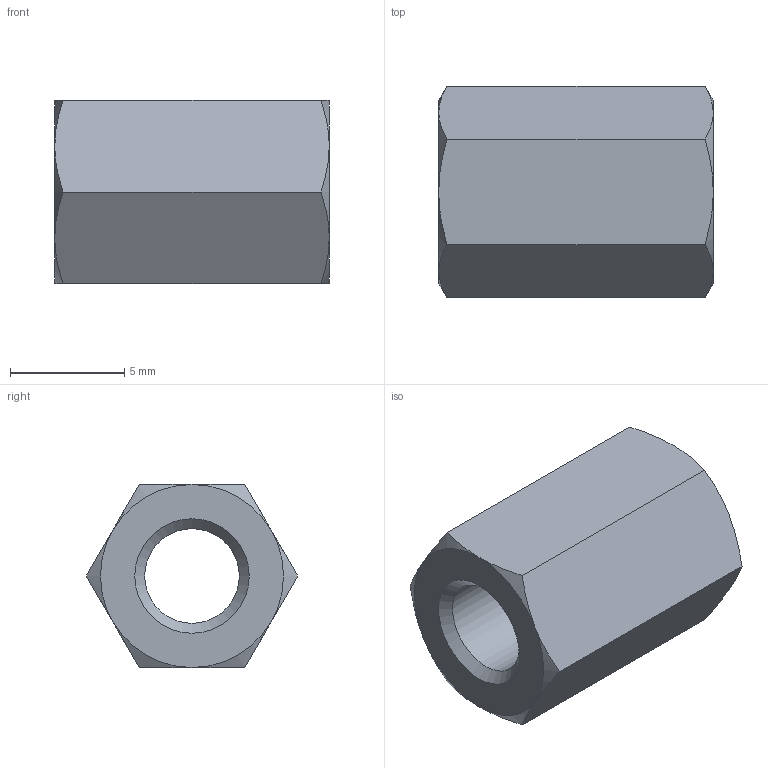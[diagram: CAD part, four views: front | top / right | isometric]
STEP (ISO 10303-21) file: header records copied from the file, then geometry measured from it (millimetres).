
FILE_DESCRIPTION( ( 'STEP AP203' ), '1' );
FILE_NAME( 'C:/Temp/Ganter_Step_05_03_2020/data/3_2/gn6220/gn6220_st/Spacer GN 6220-ST-M5-12-A.stp', '2020-03-13T05:42:26', ( 'License CC BY-ND 4.0' ), ( 'CADENAS' ), ' ', 'PARTsolutions', ' ' );
FILE_SCHEMA( ( 'CONFIG_CONTROL_DESIGN' ) );
Length unit declared in the file: millimetre
Products named in the file (1): _Spacer GN 6220-ST-M5-12-A
Bounding box: 12 x 9.24 x 8 mm (x, y, z)
Volume: 500.3 mm3; surface area: 561.1 mm2
Topology: 1 solids, 1 shells, 23 faces, 49 edges, 28 vertices
Faces by surface type: cone 14, plane 8, cylinder 1
Full cylindrical faces by diameter (mm): 4.134 x1
Entity records: 696 total; most frequent: CARTESIAN_POINT 202, ORIENTED_EDGE 92, DIRECTION 86, EDGE_CURVE 46, AXIS2_PLACEMENT_3D 40, EDGE_LOOP 28, VERTEX_POINT 28, FACE_OUTER_BOUND 24
